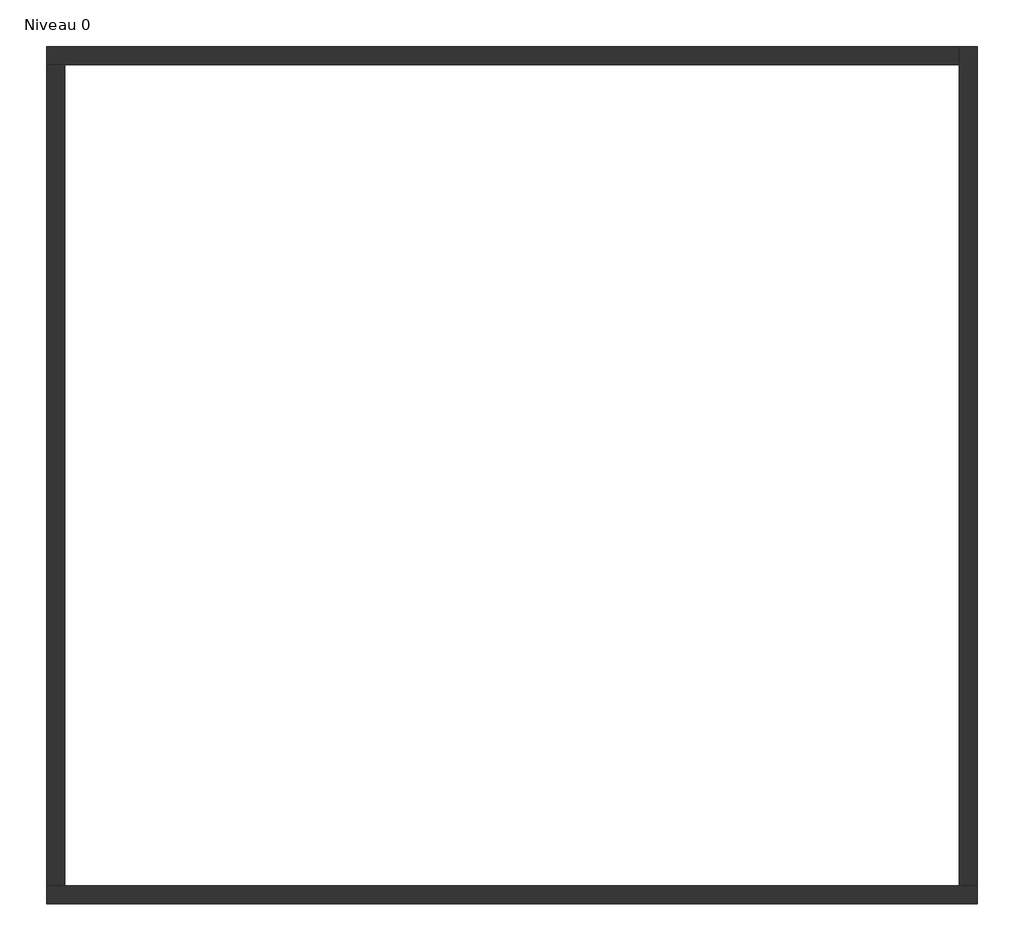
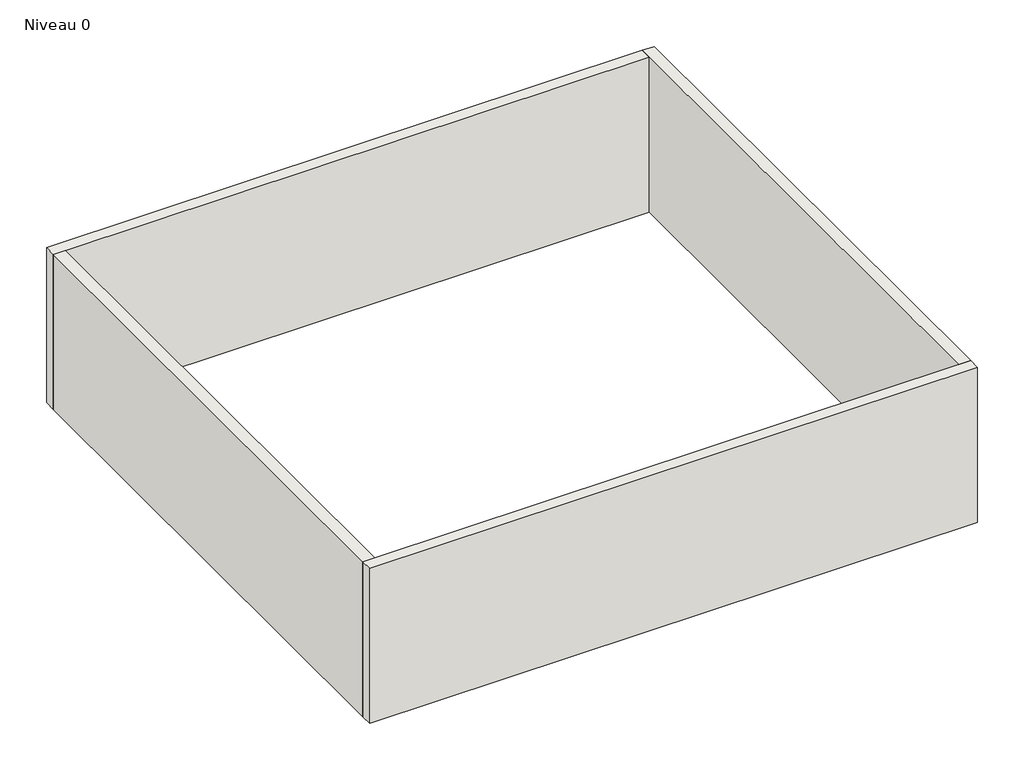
# One storey: 4 walls.
"""IFC4 building model written with IfcOpenShell, lengths in millimetres."""

from ifc_helpers import new_model, si_unit, origin, origin_with_axes, place, context, project, spatial, polyline, outline, extrude, faceted_brep, element, save

model = new_model("IFC4")

# Units and contexts
model_context = context("Model", 3, world=origin())
ifc_project = project(units=[si_unit("LENGTHUNIT", "METRE", prefix="MILLI")], contexts=[model_context])

# Site, building, storey
site = spatial("IfcSite", under=ifc_project)
building = spatial("IfcBuilding", under=site)
storey = spatial("IfcBuildingStorey", under=building, Name="Niveau 0", Elevation=0.0)

# Walls
placement = place(None, origin())
element("IfcWall", 1, ObjectType="Générique - Ext. 200 mm", at=placement, inside=storey, context=model_context, shape_type="Brep", body=[
    faceted_brep([(-10461.4804737, -4697.0899602, 0.0), (-261.4804737, -4697.0899602, 0.0), (-261.4804737, -4697.0899602, 2750.0), (-10461.4804737, -4697.0899602, 2750.0), (-10461.4804737, -4497.0899602, 0.0), (-10461.4804737, -4497.0899602, 2750.0), (-10261.4804737, -4497.0899602, 2750.0), (-461.4804737, -4497.0899602, 2750.0), (-261.4804737, -4497.0899602, 2750.0), (-261.4804737, -4497.0899602, 0.0), (-461.4804737, -4497.0899602, 0.0), (-10261.4804737, -4497.0899602, 0.0)], [[[0, 1, 2, 3]], [[4, 5, 6, 7, 8, 9, 10, 11]], [[1, 0, 4, 11, 10, 9]], [[3, 2, 8, 7, 6, 5]], [[2, 1, 9, 8]], [[0, 3, 5, 4]]]),
])
element("IfcWall", 2, ObjectType="Générique - Ext. 200 mm", at=placement, inside=storey, context=model_context, shape_type="Brep", body=[
    faceted_brep([(-261.4804737, -4497.0899602, 0.0), (-261.4804737, 4702.9100398, 0.0), (-261.4804737, 4702.9100398, 2750.0), (-261.4804737, -4497.0899602, 2750.0), (-461.4804737, -4497.0899602, 0.0), (-461.4804737, -4497.0899602, 2750.0), (-461.4804737, 4502.9100398, 2750.0), (-461.4804737, 4702.9100398, 2750.0), (-461.4804737, 4702.9100398, 0.0), (-461.4804737, 4502.9100398, 0.0)], [[[0, 1, 2, 3]], [[4, 5, 6, 7, 8, 9]], [[1, 0, 4, 9, 8]], [[3, 2, 7, 6, 5]], [[0, 3, 5, 4]], [[2, 1, 8, 7]]]),
])
element("IfcWall", 3, ObjectType="Générique - Ext. 200 mm", at=placement, inside=storey, context=model_context, shape_type="Brep", body=[
    faceted_brep([(-461.4804737, 4702.9100398, 0.0), (-10461.4804737, 4702.9100398, 0.0), (-10461.4804737, 4702.9100398, 2750.0), (-461.4804737, 4702.9100398, 2750.0), (-461.4804737, 4502.9100398, 0.0), (-461.4804737, 4502.9100398, 2750.0), (-10261.4804737, 4502.9100398, 2750.0), (-10461.4804737, 4502.9100398, 2750.0), (-10461.4804737, 4502.9100398, 0.0), (-10261.4804737, 4502.9100398, 0.0)], [[[0, 1, 2, 3]], [[4, 5, 6, 7, 8, 9]], [[1, 0, 4, 9, 8]], [[3, 2, 7, 6, 5]], [[0, 3, 5, 4]], [[2, 1, 8, 7]]]),
])
element("IfcWall", 4, ObjectType="Générique - Ext. 200 mm", at=placement, inside=storey, context=model_context, shape_type="SweptSolid", body=[
    extrude(outline(polyline([(-10461.4804737, -4497.0899602), (-10461.4804737, 4502.9100398), (-10261.4804737, 4502.9100398), (-10261.4804737, -4497.0899602), (-10461.4804737, -4497.0899602)])), origin_with_axes(), (0.0, 0.0, 1.0), 2750.0),
])

save(model, "model.ifc")
